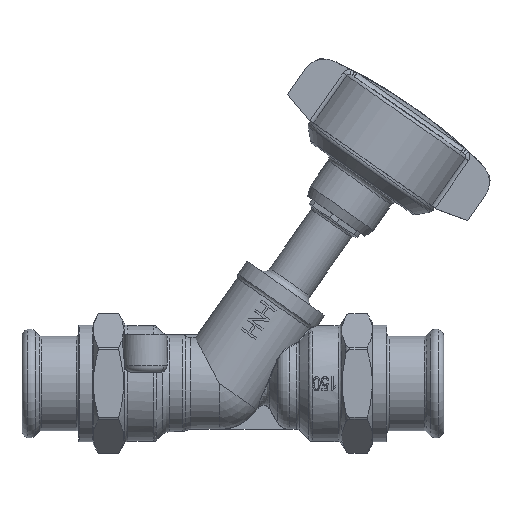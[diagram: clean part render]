
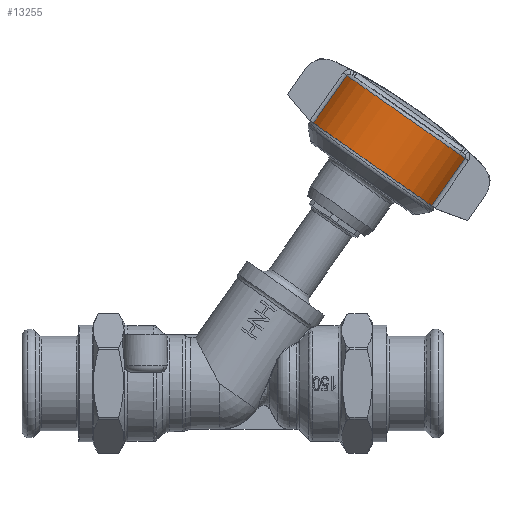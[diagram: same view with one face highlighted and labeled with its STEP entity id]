
A CAD part, top view. The second image highlights one B-rep face of the part: STEP entity #13255.
In plain terms, the highlighted cylindrical face has radius 31.925 mm (diameter 63.85 mm), a partial arc.
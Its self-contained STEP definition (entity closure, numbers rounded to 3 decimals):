
#12114=CARTESIAN_POINT('',(37.834,92.092,12.328));
#12115=VERTEX_POINT('',#12114);
#12123=CARTESIAN_POINT('',(24.24,72.678,12.328));
#12124=VERTEX_POINT('',#12123);
#12125=CARTESIAN_POINT('',(37.834,92.092,12.328));
#12126=DIRECTION('',(-0.574,-0.819,0.));
#12127=VECTOR('',#12126,23.7);
#12128=LINE('',#12125,#12127);
#12129=EDGE_CURVE('',#12115,#12124,#12128,.T.);
#12524=CARTESIAN_POINT('',(-10.412,125.874,12.328));
#12525=VERTEX_POINT('',#12524);
#12555=CARTESIAN_POINT('',(-24.006,106.46,12.328));
#12556=VERTEX_POINT('',#12555);
#12564=CARTESIAN_POINT('',(-24.006,106.46,12.328));
#12565=DIRECTION('',(0.574,0.819,0.0));
#12566=VECTOR('',#12565,23.7);
#12567=LINE('',#12564,#12566);
#12568=EDGE_CURVE('',#12556,#12525,#12567,.T.);
#13228=CARTESIAN_POINT('',(13.711,108.983,0.0));
#13229=DIRECTION('',(-0.574,-0.819,0.0));
#13230=DIRECTION('',(0.819,-0.574,0.0));
#13231=AXIS2_PLACEMENT_3D('',#13228,#13229,#13230);
#13232=CIRCLE('',#13231,31.925);
#13233=EDGE_CURVE('',#12115,#12525,#13232,.T.);
#13238=CARTESIAN_POINT('',(6.914,99.276,0.0));
#13239=DIRECTION('',(-0.574,-0.819,0.0));
#13240=DIRECTION('',(0.819,-0.574,0.0));
#13241=AXIS2_PLACEMENT_3D('',#13238,#13239,#13240);
#13242=CYLINDRICAL_SURFACE('',#13241,31.925);
#13243=ORIENTED_EDGE('',*,*,#12129,.F.);
#13244=ORIENTED_EDGE('',*,*,#13233,.T.);
#13245=ORIENTED_EDGE('',*,*,#12568,.F.);
#13246=CARTESIAN_POINT('',(0.117,89.569,0.0));
#13247=DIRECTION('',(-0.574,-0.819,0.0));
#13248=DIRECTION('',(0.819,-0.574,0.0));
#13249=AXIS2_PLACEMENT_3D('',#13246,#13247,#13248);
#13250=CIRCLE('',#13249,31.925);
#13251=EDGE_CURVE('',#12124,#12556,#13250,.T.);
#13252=ORIENTED_EDGE('',*,*,#13251,.F.);
#13253=EDGE_LOOP('',(#13243,#13244,#13245,#13252));
#13254=FACE_OUTER_BOUND('',#13253,.T.);
#13255=ADVANCED_FACE('',(#13254),#13242,.T.);
